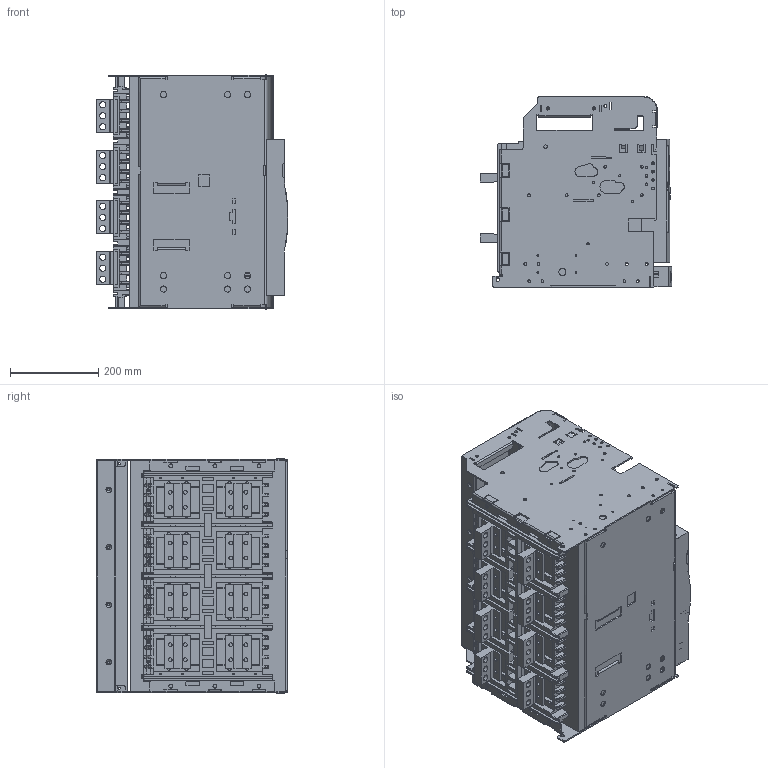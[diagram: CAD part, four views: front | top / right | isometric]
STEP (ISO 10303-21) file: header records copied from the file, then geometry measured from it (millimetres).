
FILE_DESCRIPTION (( 'STEP AP214' ), '1' );
FILE_NAME ('OptiMat A-S4-BH-2500-3200-4P-D-H.STEP', '2023-08-03T11:58:02', ( '' ), ( '' ), 'SwSTEP 2.0', 'SolidWorks 2018', '' );
FILE_SCHEMA (( 'AUTOMOTIVE_DESIGN' ));
Length unit declared in the file: millimetre
Products named in the file (1): OptiMat A-S4-BH-2500-3200-4P-D-H
Bounding box: 433.8 x 431.5 x 530 mm (x, y, z)
Volume: 56426681.5 mm3; surface area: 3036192.6 mm2
Topology: 16 solids, 31 shells, 5220 faces, 14650 edges, 9460 vertices
Faces by surface type: plane 3338, cylinder 1546, torus 169, cone 107, bspline 36, sphere 24
Entity records: 233106 total; most frequent: CARTESIAN_POINT 39806, ORIENTED_EDGE 29232, DIRECTION 27747, EDGE_CURVE 14616, VECTOR 10793, LINE 10793, VERTEX_POINT 9460, AXIS2_PLACEMENT_3D 8477
